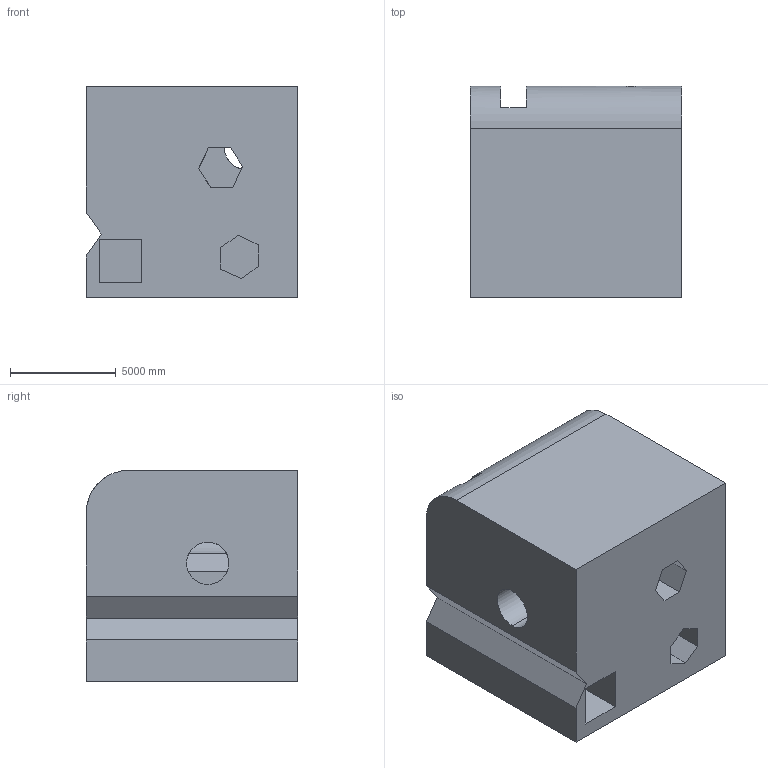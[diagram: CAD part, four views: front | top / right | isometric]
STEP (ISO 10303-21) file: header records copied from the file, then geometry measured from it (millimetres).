
FILE_DESCRIPTION (( 'STEP AP203' ), '1' );
FILE_NAME ('824.STEP', '2022-07-29T13:29:20', ( 'user' ), ( '' ), 'SwSTEP 2.0', 'SolidWorks 2021', '' );
FILE_SCHEMA (( 'CONFIG_CONTROL_DESIGN' ));
Length unit declared in the file: centimetre
Products named in the file (1): 824
Bounding box: 10000 x 10000 x 10000 mm (x, y, z)
Volume: 851437458849.6 mm3; surface area: 839717061.1 mm2
Topology: 1 solids, 1 shells, 43 faces, 120 edges, 80 vertices
Faces by surface type: plane 36, cylinder 7
Entity records: 1505 total; most frequent: CARTESIAN_POINT 308, ORIENTED_EDGE 240, DIRECTION 220, EDGE_CURVE 120, VECTOR 96, LINE 96, VERTEX_POINT 80, AXIS2_PLACEMENT_3D 62
